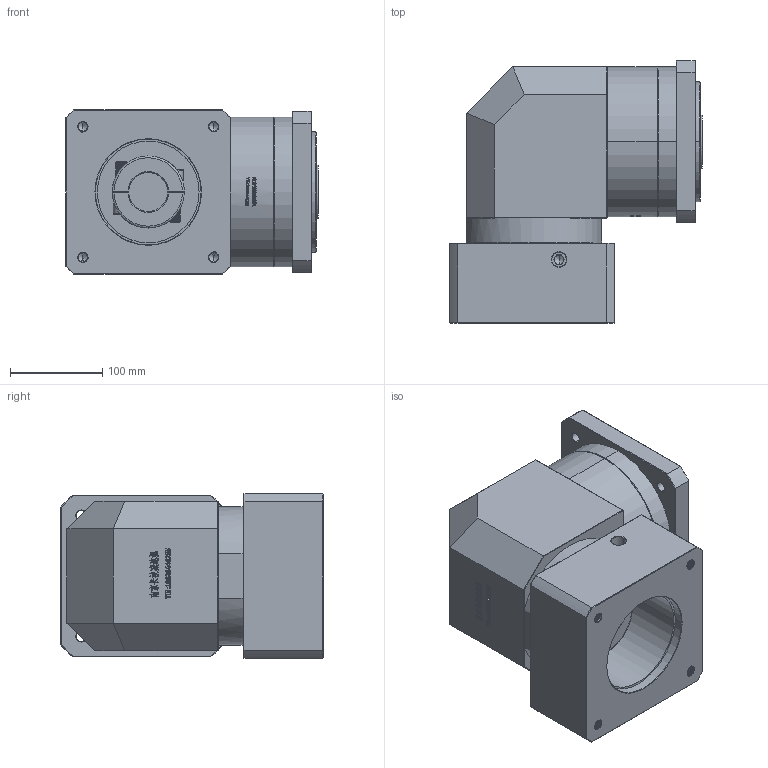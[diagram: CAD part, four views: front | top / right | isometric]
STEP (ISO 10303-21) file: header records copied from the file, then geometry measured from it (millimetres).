
FILE_DESCRIPTION (( 'STEP AP214' ), '1' );
FILE_NAME ('ZFR160A-K35-L1-42-114.3-200-M12.step', '2023-03-22T11:48:11', ( '' ), ( '' ), 'SwSTEP 2.0', 'SolidWorks 2016', '' );
FILE_SCHEMA (( 'AUTOMOTIVE_DESIGN' ));
Length unit declared in the file: millimetre
Products named in the file (1): ZFR160A-K35-L1-42-114.3-200-M12
Bounding box: 272.7 x 283.5 x 178 mm (x, y, z)
Volume: 7752213.4 mm3; surface area: 497265.3 mm2
Topology: 6 solids, 6 shells, 2443 faces, 6433 edges, 4143 vertices
Faces by surface type: plane 1266, bspline 490, cylinder 364, cone 303, torus 20
Entity records: 135365 total; most frequent: CARTESIAN_POINT 52220, ORIENTED_EDGE 12810, DIRECTION 9778, EDGE_CURVE 6405, VERTEX_POINT 4143, VECTOR 4086, LINE 4086, AXIS2_PLACEMENT_3D 2846
